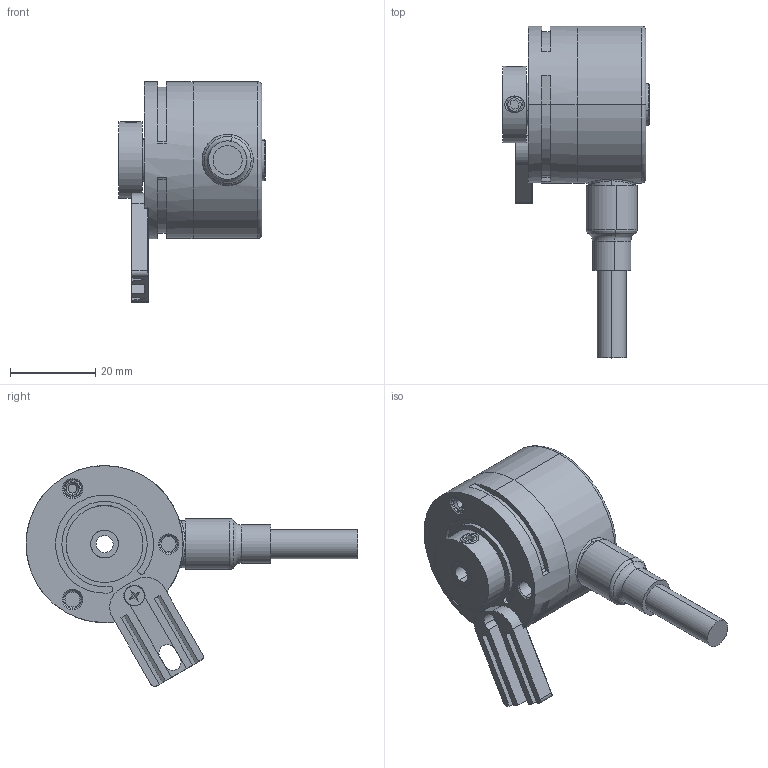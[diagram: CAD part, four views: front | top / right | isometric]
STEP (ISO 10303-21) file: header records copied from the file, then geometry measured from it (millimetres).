
FILE_DESCRIPTION (( 'STEP AP214' ), '1' );
FILE_NAME ('3720.21X1.XXXX.STEP', '2008-11-28T06:22:59', ( 'admin' ), ( 'Fritz Kübler GmbH' ), 'SwSTEP 2.0', 'SolidWorks 2008', '' );
FILE_SCHEMA (( 'AUTOMOTIVE_DESIGN' ));
Length unit declared in the file: millimetre
Products named in the file (1): 3720.21X1.XXXX
Bounding box: 34.3 x 77.8 x 51.76 mm (x, y, z)
Volume: 17399.4 mm3; surface area: 19567.4 mm2
Topology: 12 solids, 12 shells, 774 faces, 1904 edges, 1177 vertices
Faces by surface type: cylinder 286, plane 236, torus 90, bspline 77, cone 60, sphere 25
Entity records: 34231 total; most frequent: CARTESIAN_POINT 7823, DIRECTION 3810, ORIENTED_EDGE 3762, EDGE_CURVE 1881, AXIS2_PLACEMENT_3D 1562, VERTEX_POINT 1167, CIRCLE 864, EDGE_LOOP 834
